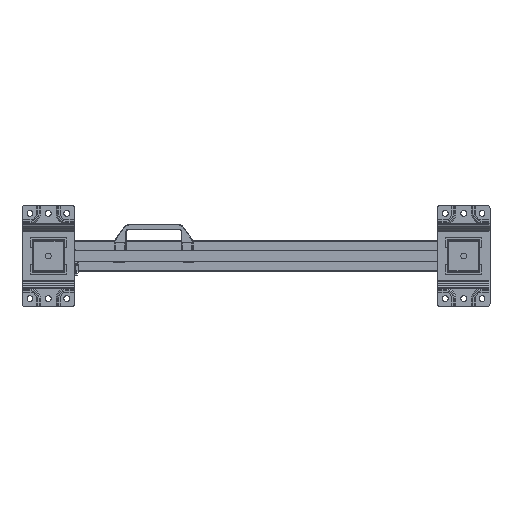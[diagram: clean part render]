
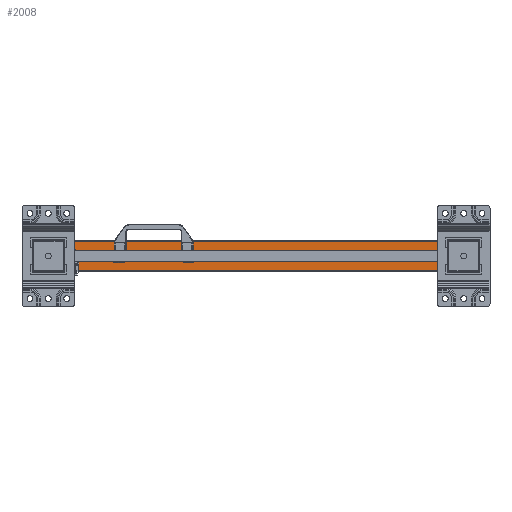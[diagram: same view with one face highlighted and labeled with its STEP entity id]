
A CAD part, front view. The second image highlights one B-rep face of the part: STEP entity #2008.
In plain terms, the highlighted planar face has unit normal (0, -1, 0).
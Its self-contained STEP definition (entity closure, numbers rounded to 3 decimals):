
#2008=ADVANCED_FACE('',(#5945),#5946,.T.);
#5945=FACE_OUTER_BOUND('',#12134,.T.);
#5946=PLANE('',#12135);
#12134=EDGE_LOOP('',(#19867,#19868,#19869,#19870));
#12135=AXIS2_PLACEMENT_3D('',#19871,#19872,#19873);
#19867=ORIENTED_EDGE('',*,*,#37314,.T.);
#19868=ORIENTED_EDGE('',*,*,#37315,.F.);
#19869=ORIENTED_EDGE('',*,*,#37316,.T.);
#19870=ORIENTED_EDGE('',*,*,#37304,.T.);
#19871=CARTESIAN_POINT('',(0.0,2339.0,30.));
#19872=DIRECTION('',(0.,-1.0,0.));
#19873=DIRECTION('',(-1.0,0.,0.0));
#37304=EDGE_CURVE('',#44474,#44472,#44475,.T.);
#37314=EDGE_CURVE('',#44472,#44487,#44488,.T.);
#37315=EDGE_CURVE('',#44489,#44487,#44490,.T.);
#37316=EDGE_CURVE('',#44489,#44474,#44491,.T.);
#44472=VERTEX_POINT('',#54990);
#44474=VERTEX_POINT('',#54993);
#44475=LINE('',#54994,#54995);
#44487=VERTEX_POINT('',#55013);
#44488=LINE('',#55014,#55015);
#44489=VERTEX_POINT('',#55016);
#44490=LINE('',#55017,#55018);
#44491=LINE('',#55019,#55020);
#54990=CARTESIAN_POINT('',(730.0,2339.0,-30.));
#54993=CARTESIAN_POINT('',(0.,2339.0,-30.));
#54994=CARTESIAN_POINT('',(0.,2339.0,-30.));
#54995=VECTOR('',#70836,10.0);
#55013=CARTESIAN_POINT('',(730.0,2339.0,30.));
#55014=CARTESIAN_POINT('',(730.0,2339.0,15.));
#55015=VECTOR('',#70843,1.0);
#55016=CARTESIAN_POINT('',(0.0,2339.0,30.));
#55017=CARTESIAN_POINT('',(0.0,2339.0,30.));
#55018=VECTOR('',#70844,10.0);
#55019=CARTESIAN_POINT('',(0.0,2339.0,30.));
#55020=VECTOR('',#70845,10.0);
#70836=DIRECTION('',(1.0,0.,0.));
#70843=DIRECTION('',(-0.0,0.,1.0));
#70844=DIRECTION('',(1.0,0.,0.));
#70845=DIRECTION('',(0.,0.,-1.0));
